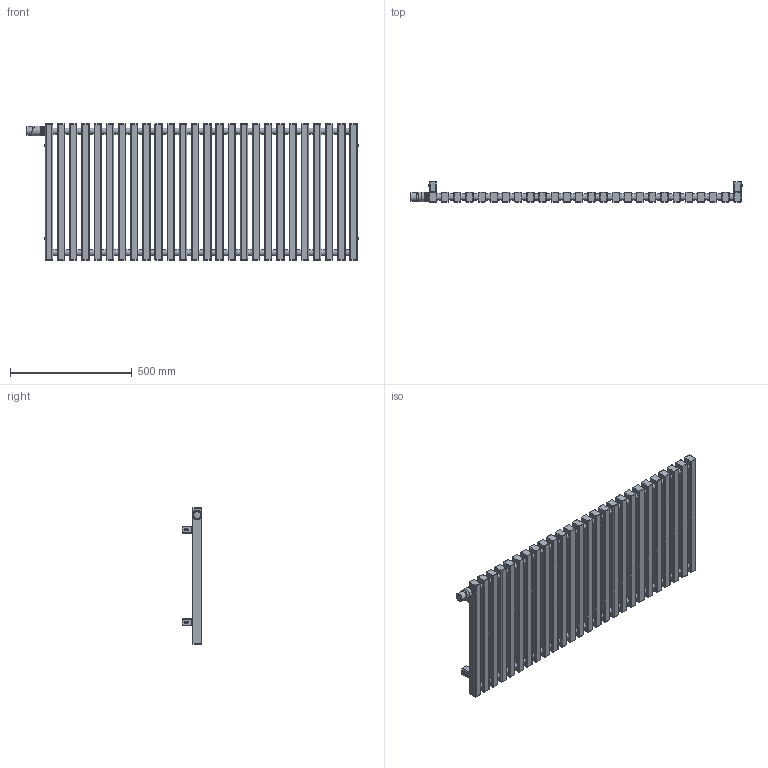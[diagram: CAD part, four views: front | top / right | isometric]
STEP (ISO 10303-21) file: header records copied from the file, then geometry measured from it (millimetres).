
FILE_DESCRIPTION((''),'2;1');
FILE_NAME('Z:\R\G\P\RGP029 - Grzejnik Triga ( ZET)\Work\Inventor\Triga v1.1\Marketing\AutoCad 3D\G-TR-XX-MK-XX-56-12-VL.stp','2012-07-26T13:12:05',('DawPi'),(''),'Autodesk Inventor 2012','Autodesk Inventor 2012','');
FILE_SCHEMA(('AUTOMOTIVE_DESIGN { 1 0 10303 214 1 1 1 1 }'));
Length unit declared in the file: millimetre
Products named in the file (4): G-TR-XX-MK-XX-56-12-VL; MMT42; A40300A
Assembly tree (6 placements, depth 2):
  G-TR-XX-MK-XX-56-12-VL
    G-TR-XX-MK-XX-56-12-VL
    MMT42  x4
    A40300A
Bounding box: 1362.26 x 82 x 560 mm (x, y, z)
Volume: 18063195.5 mm3; surface area: 2104015 mm2
Topology: 6 solids, 7 shells, 993 faces, 2198 edges, 1311 vertices
Faces by surface type: cylinder 441, plane 303, bspline 209, cone 25, torus 14, sphere 1
Full cylindrical faces by diameter (mm): 4 x1, 4.134 x4, 4.509 x4, 5 x1, 10 x5, 11.445 x1, 12 x4, 18.631 x2, 25 x50, 26.211 x1, 28 x1, 30 x1, 31 x1, 33.8 x1, 34 x2, 35 x3, 36 x4, 38 x3
Entity records: 39084 total; most frequent: CARTESIAN_POINT 20490, DIRECTION 4126, ORIENTED_EDGE 3540, EDGE_CURVE 1770, AXIS2_PLACEMENT_3D 1701, VERTEX_POINT 1096, EDGE_LOOP 1088, CIRCLE 1040
